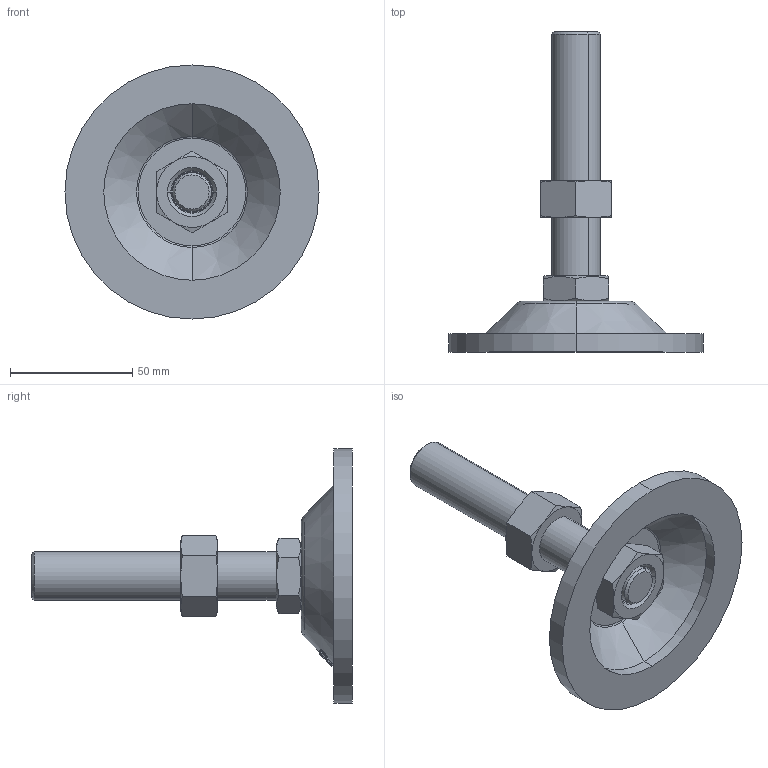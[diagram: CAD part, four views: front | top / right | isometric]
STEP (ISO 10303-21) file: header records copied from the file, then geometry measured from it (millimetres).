
FILE_DESCRIPTION (( 'STEP AP203' ), '1' );
FILE_NAME ('P-104-20100-BR .STEP', '2020-09-10T08:59:20', ( '' ), ( '' ), 'SwSTEP 2.0', 'SolidWorks 2016', '' );
FILE_SCHEMA (( 'CONFIG_CONTROL_DESIGN' ));
Length unit declared in the file: millimetre
Products named in the file (5): 脚垫调节六角螺母M20; P-104-20100-BR ; 傲郈蹟裝M20炵蹈_M20X100; P-104-1菁釱-3P; 脚垫锁紧六角薄螺母M20
Assembly tree (4 placements, depth 2):
  P-104-20100-BR 
    P-104-1菁釱-3P
    傲郈蹟裝M20炵蹈_M20X100
    脚垫锁紧六角薄螺母M20
    脚垫调节六角螺母M20
Bounding box: 104 x 131.2 x 104 mm (x, y, z)
Volume: 98955.7 mm3; surface area: 50585.3 mm2
Topology: 5 solids, 5 shells, 165 faces, 378 edges, 234 vertices
Faces by surface type: cone 57, bspline 38, plane 34, cylinder 20, torus 16
Entity records: 9387 total; most frequent: CARTESIAN_POINT 5514, ORIENTED_EDGE 756, DIRECTION 586, EDGE_CURVE 378, AXIS2_PLACEMENT_3D 260, VERTEX_POINT 234, B_SPLINE_CURVE_WITH_KNOTS 186, EDGE_LOOP 184
